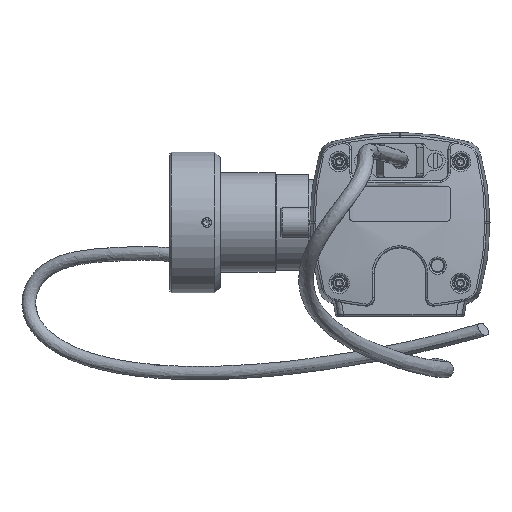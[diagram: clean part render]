
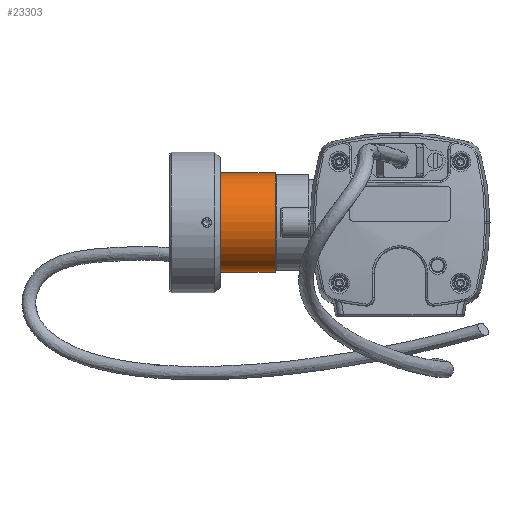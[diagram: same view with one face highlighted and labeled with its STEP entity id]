
A CAD part, left-side view. The second image highlights one B-rep face of the part: STEP entity #23303.
In plain terms, the highlighted cylindrical face has radius 12.7 mm (diameter 25.4 mm), a full revolution.
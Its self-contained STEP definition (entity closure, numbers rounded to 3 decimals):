
#755=CYLINDRICAL_SURFACE('',#25259,12.7);
#1753=LINE('',#37847,#3192);
#3192=VECTOR('',#29779,12.7);
#5166=FACE_OUTER_BOUND('',#6535,.T.);
#6535=EDGE_LOOP('',(#17857,#17858,#17859,#17860,#17861,#17862));
#8083=CIRCLE('',#24447,12.7);
#8084=CIRCLE('',#24448,12.7);
#8484=CIRCLE('',#25260,12.7);
#8485=CIRCLE('',#25261,12.7);
#9370=VERTEX_POINT('',#35090);
#9371=VERTEX_POINT('',#35091);
#10042=VERTEX_POINT('',#37846);
#10043=VERTEX_POINT('',#37848);
#11804=EDGE_CURVE('',#9370,#9371,#8083,.T.);
#11805=EDGE_CURVE('',#9371,#9370,#8084,.T.);
#12854=EDGE_CURVE('',#9371,#10042,#1753,.T.);
#12855=EDGE_CURVE('',#10042,#10043,#8484,.T.);
#12856=EDGE_CURVE('',#10043,#10042,#8485,.T.);
#17857=ORIENTED_EDGE('',*,*,#11804,.F.);
#17858=ORIENTED_EDGE('',*,*,#11805,.F.);
#17859=ORIENTED_EDGE('',*,*,#12854,.T.);
#17860=ORIENTED_EDGE('',*,*,#12855,.T.);
#17861=ORIENTED_EDGE('',*,*,#12856,.T.);
#17862=ORIENTED_EDGE('',*,*,#12854,.F.);
#23303=ADVANCED_FACE('',(#5166),#755,.T.);
#24447=AXIS2_PLACEMENT_3D('',#35092,#27587,#27588);
#24448=AXIS2_PLACEMENT_3D('',#35093,#27589,#27590);
#25259=AXIS2_PLACEMENT_3D('',#37845,#29777,#29778);
#25260=AXIS2_PLACEMENT_3D('',#37849,#29780,#29781);
#25261=AXIS2_PLACEMENT_3D('',#37850,#29782,#29783);
#27587=DIRECTION('center_axis',(0.,1.,0.));
#27588=DIRECTION('ref_axis',(-1.,0.,0.));
#27589=DIRECTION('center_axis',(0.,1.,0.));
#27590=DIRECTION('ref_axis',(-1.,0.,0.));
#29777=DIRECTION('center_axis',(0.,1.,0.));
#29778=DIRECTION('ref_axis',(-1.,0.,0.));
#29779=DIRECTION('',(0.,-1.,0.));
#29780=DIRECTION('center_axis',(0.,1.,0.));
#29781=DIRECTION('ref_axis',(-1.,0.,0.));
#29782=DIRECTION('center_axis',(0.,1.,0.));
#29783=DIRECTION('ref_axis',(-1.,0.,0.));
#35090=CARTESIAN_POINT('',(-3.25,27.196,0.));
#35091=CARTESIAN_POINT('',(22.15,27.196,0.));
#35092=CARTESIAN_POINT('Origin',(9.45,27.196,0.));
#35093=CARTESIAN_POINT('Origin',(9.45,27.196,0.));
#37845=CARTESIAN_POINT('Origin',(9.45,26.846,0.));
#37846=CARTESIAN_POINT('',(22.15,13.196,0.));
#37847=CARTESIAN_POINT('',(22.15,26.846,0.));
#37848=CARTESIAN_POINT('',(-3.25,13.196,0.));
#37849=CARTESIAN_POINT('Origin',(9.45,13.196,0.));
#37850=CARTESIAN_POINT('Origin',(9.45,13.196,0.));
